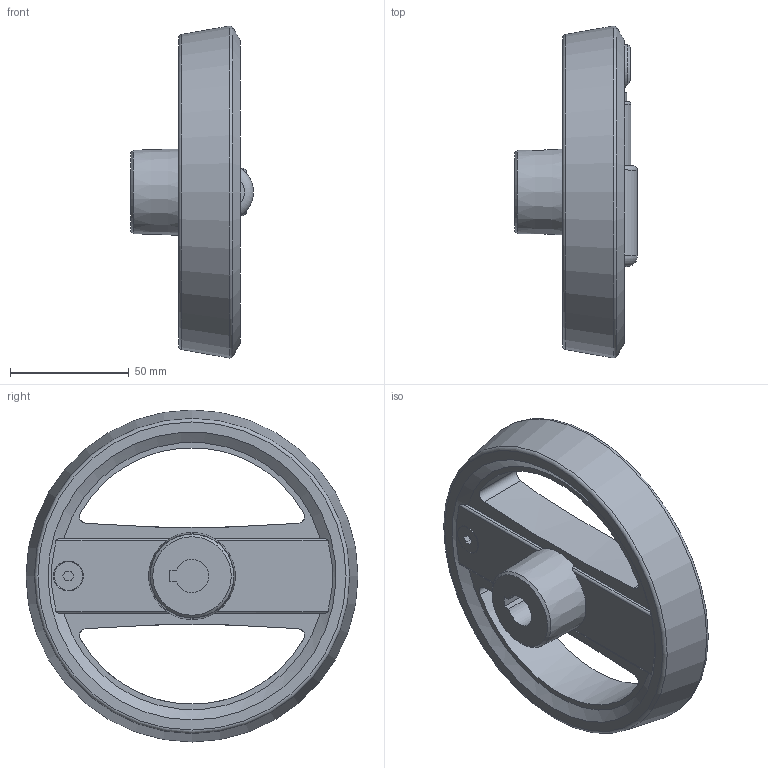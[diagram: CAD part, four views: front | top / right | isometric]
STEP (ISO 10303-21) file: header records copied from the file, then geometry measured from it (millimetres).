
FILE_DESCRIPTION( ( 'STEP AP203' ), '1' );
FILE_NAME( 'C:/Temp/Ganter_Step_05_03_2020/data/1_3/gn_924_7/gn_924_7_k/Handwheel with retractable handle GN 924.7-140-K14-R-SW (unactivated).stp', '2020-03-05T10:41:56', ( 'License CC BY-ND 4.0' ), ( 'CADENAS' ), ' ', 'PARTsolutions', ' ' );
FILE_SCHEMA( ( 'CONFIG_CONTROL_DESIGN' ) );
Length unit declared in the file: millimetre
Products named in the file (3): Handwheel with retractable handle GN 924.7-140-K14-R-SW (unactivated); _Umleggriff-Handrad GN 924.7-140-K14-R-SW-1; _Umleggriff-Handrad GN 924.7-140-K14-R-SW (0)-2
Assembly tree (2 placements, depth 2):
  Handwheel with retractable handle GN 924.7-140-K14-R-SW (unactivated)
    _Umleggriff-Handrad GN 924.7-140-K14-R-SW-1
    _Umleggriff-Handrad GN 924.7-140-K14-R-SW (0)-2
Bounding box: 51.7 x 139.68 x 139.68 mm (x, y, z)
Volume: 222411.9 mm3; surface area: 57804.5 mm2
Topology: 2 solids, 2 shells, 105 faces, 266 edges, 172 vertices
Faces by surface type: plane 47, cylinder 38, cone 10, torus 8, sphere 2
Full cylindrical faces by diameter (mm): 4 x4, 5 x1, 8 x1, 12 x1, 15 x1, 18.5 x1, 20 x1, 24 x1, 25 x1, 26.6 x1
Entity records: 3443 total; most frequent: CARTESIAN_POINT 980, DIRECTION 490, ORIENTED_EDGE 446, EDGE_CURVE 223, AXIS2_PLACEMENT_3D 201, VERTEX_POINT 164, EDGE_LOOP 152, FACE_OUTER_BOUND 125
